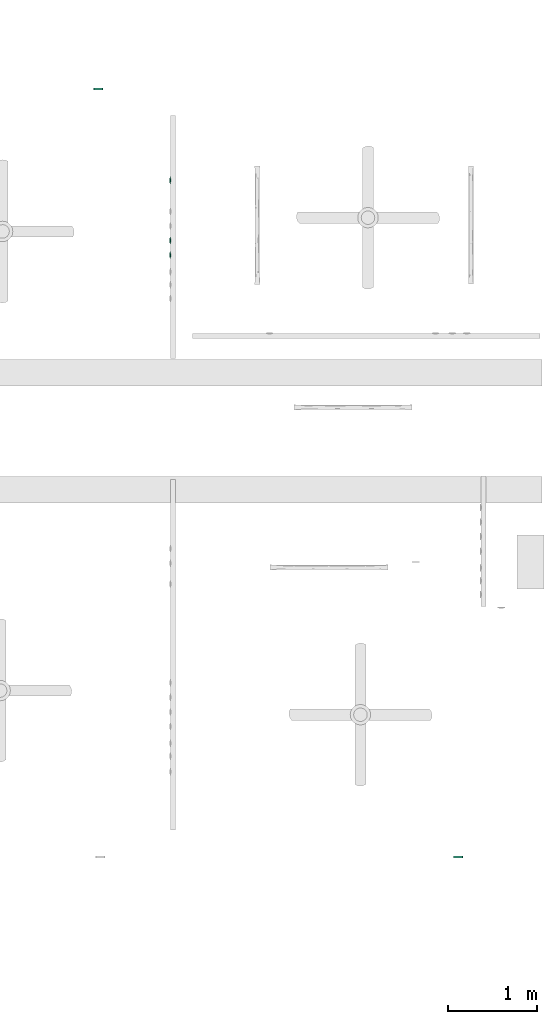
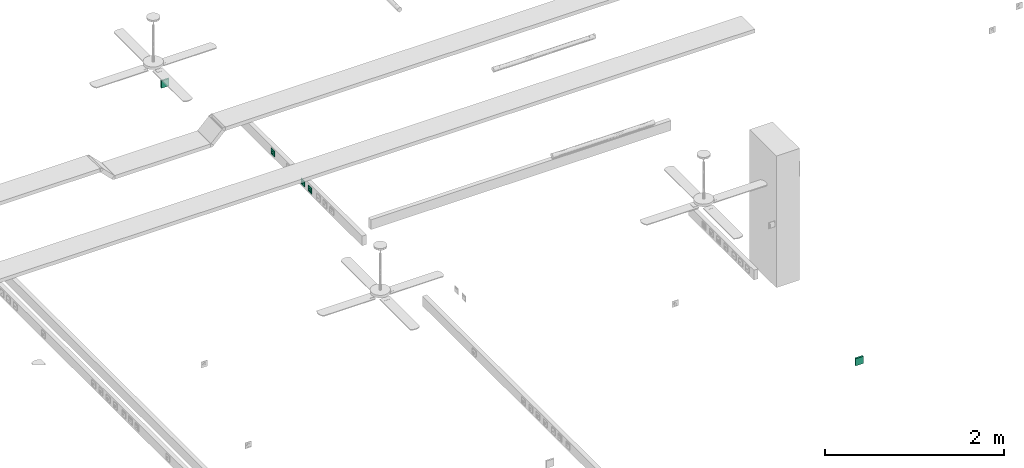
# One storey, part 71 of 166: 5 flow terminals.
"""IFC2X3 building model written with IfcOpenShell, lengths in metres."""

from ifc_helpers import new_model, entity, si_unit, converted_unit, derived_unit, direction, frame, origin, origin_2d_with_axis, place, context, subcontext, project, spatial, rectangle, extrude, face_set, surface_model, source, transform, mapped, type_object, type_shapes, element, save


model = new_model("IFC2X3")

# Units and contexts
model_context = context("Model", 3, precision=1e-05, world=origin(), true_north=direction((6.12303176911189e-17, 1.0)))
body_context = subcontext(model_context, "Body", "Model", "MODEL_VIEW")
ifc_project = project(units=[si_unit("LENGTHUNIT", "METRE"), si_unit("AREAUNIT", "SQUARE_METRE"), si_unit("VOLUMEUNIT", "CUBIC_METRE"), converted_unit("PLANEANGLEUNIT", "DEGREE", entity("IfcRatioMeasure", 0.0174532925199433), si_unit("PLANEANGLEUNIT", "RADIAN"), dimensions=[0, 0, 0, 0, 0, 0, 0]), si_unit("MASSUNIT", "GRAM", prefix="KILO"), derived_unit("MASSDENSITYUNIT", [(si_unit("MASSUNIT", "GRAM", prefix="KILO"), 1), (si_unit("LENGTHUNIT", "METRE"), -3)]), si_unit("TIMEUNIT", "SECOND"), si_unit("FREQUENCYUNIT", "HERTZ"), si_unit("THERMODYNAMICTEMPERATUREUNIT", "DEGREE_CELSIUS"), derived_unit("THERMALTRANSMITTANCEUNIT", [(si_unit("MASSUNIT", "GRAM", prefix="KILO"), 1), (si_unit("THERMODYNAMICTEMPERATUREUNIT", "KELVIN"), -1), (si_unit("TIMEUNIT", "SECOND"), -3)]), derived_unit("VOLUMETRICFLOWRATEUNIT", [(si_unit("LENGTHUNIT", "METRE"), 3), (si_unit("TIMEUNIT", "SECOND"), -1)]), si_unit("ELECTRICCURRENTUNIT", "AMPERE"), si_unit("ELECTRICVOLTAGEUNIT", "VOLT"), si_unit("POWERUNIT", "WATT"), si_unit("FORCEUNIT", "NEWTON"), si_unit("ILLUMINANCEUNIT", "LUX"), si_unit("LUMINOUSFLUXUNIT", "LUMEN"), si_unit("LUMINOUSINTENSITYUNIT", "CANDELA"), derived_unit("USERDEFINED", [(si_unit("MASSUNIT", "GRAM", prefix="KILO"), -1), (si_unit("LENGTHUNIT", "METRE"), -2), (si_unit("TIMEUNIT", "SECOND"), 3), (si_unit("LUMINOUSFLUXUNIT", "LUMEN"), 1)]), derived_unit("LINEARVELOCITYUNIT", [(si_unit("LENGTHUNIT", "METRE"), 1), (si_unit("TIMEUNIT", "SECOND"), -1)]), si_unit("PRESSUREUNIT", "PASCAL"), derived_unit("USERDEFINED", [(si_unit("LENGTHUNIT", "METRE"), -2), (si_unit("MASSUNIT", "GRAM", prefix="KILO"), 1), (si_unit("TIMEUNIT", "SECOND"), -2)])], contexts=[model_context])

# Site, building, storey
site_placement = place(None, origin())
site = spatial("IfcSite", under=ifc_project, at=site_placement, Name="Default", CompositionType="ELEMENT")
building_placement = place(site_placement, origin())
building = spatial("IfcBuilding", under=site, at=building_placement, CompositionType="ELEMENT")
storey_placement = place(building_placement, frame((0.0, 0.0, 4.27)))
storey = spatial("IfcBuildingStorey", under=building, at=storey_placement, Name="01", CompositionType="ELEMENT", Elevation=4.27)

# Flow terminals
light_fixture_type_1 = type_object("IfcLightFixtureType", Name="PC IP20", PredefinedType="NOTDEFINED")
shared_shape_1 = source(origin(), body_context, "Body", "SurfaceModel", [
    surface_model("IfcFaceBasedSurfaceModel", [(-0.00225000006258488, 0.0127499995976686, 0.00949633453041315), (0.0, 0.0104999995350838, 0.00949633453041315), (0.0, 0.0115376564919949, 0.0101656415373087), (0.0, 0.0139623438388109, 0.0101656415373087), (0.0, 0.0144589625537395, 0.00984531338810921), (0.0, 0.0121178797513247, 0.0102778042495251), (0.0, 0.0133821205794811, 0.0102778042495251), (0.0, 0.0127499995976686, 0.010399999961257), (0.0, 0.0149999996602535, 0.00949633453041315), (0.00225000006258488, 0.0127499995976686, 0.00949633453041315), (0.0, 0.0110410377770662, 0.00984531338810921), (0.0, 0.0127499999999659, 0.00949633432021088), (0.00225000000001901, 0.0127499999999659, 0.00949633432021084), (0.00217333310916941, 0.0121676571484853, 0.00949633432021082), (0.00194855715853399, 0.0116249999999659, 0.00949633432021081), (0.00159099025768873, 0.0111590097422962, 0.00949633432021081), (0.001125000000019, 0.010801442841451, 0.00949633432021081), (0.00058234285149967, 0.0105766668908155, 0.00949633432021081), (0.0, 0.0104999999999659, 0.00949633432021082), (-0.000582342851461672, 0.0105766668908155, 0.00949633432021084), (-0.001124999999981, 0.010801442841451, 0.00949633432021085), (-0.00159099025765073, 0.0111590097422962, 0.00949633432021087), (-0.00194855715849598, 0.011624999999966, 0.00949633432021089), (-0.0021733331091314, 0.0121676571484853, 0.00949633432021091), (-0.00224999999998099, 0.012749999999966, 0.00949633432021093), (-0.00217333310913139, 0.0133323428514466, 0.00949633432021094), (-0.00194855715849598, 0.013874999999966, 0.00949633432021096), (-0.00159099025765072, 0.0143409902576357, 0.00949633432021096), (-0.00112499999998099, 0.0146985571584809, 0.00949633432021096), (-0.00058234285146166, 0.0149233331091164, 0.00949633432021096), (0.0, 0.0149999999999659, 0.00949633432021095), (0.000582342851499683, 0.0149233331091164, 0.00949633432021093), (0.00112500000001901, 0.0146985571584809, 0.00949633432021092), (0.00159099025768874, 0.0143409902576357, 0.00949633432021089), (0.001948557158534, 0.0138749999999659, 0.00949633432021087), (0.00217333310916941, 0.0133323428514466, 0.00949633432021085), (0.00225000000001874, 0.0127499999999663, -0.00360000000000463), (0.00217333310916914, 0.0121676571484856, -0.00360000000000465), (0.00194855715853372, 0.0116249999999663, -0.00360000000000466), (0.00159099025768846, 0.0111590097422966, -0.00360000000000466), (0.00112500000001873, 0.0108014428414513, -0.00360000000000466), (0.000582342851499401, 0.0105766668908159, -0.00360000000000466), (0.0, 0.0104999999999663, -0.00360000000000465), (-0.000582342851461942, 0.0105766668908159, -0.00360000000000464), (-0.00112499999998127, 0.0108014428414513, -0.00360000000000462), (-0.001590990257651, 0.0111590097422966, -0.0036000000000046), (-0.00194855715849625, 0.0116249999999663, -0.00360000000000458), (-0.00217333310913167, 0.0121676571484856, -0.00360000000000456), (-0.00224999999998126, 0.0127499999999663, -0.00360000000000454), (-0.00217333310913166, 0.013332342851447, -0.00360000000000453), (-0.00194855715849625, 0.0138749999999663, -0.00360000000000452), (-0.00159099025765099, 0.014340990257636, -0.00360000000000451), (-0.00112499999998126, 0.0146985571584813, -0.00360000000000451), (-0.000582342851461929, 0.0149233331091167, -0.00360000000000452), (0.0, 0.0149999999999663, -0.00360000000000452), (0.000582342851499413, 0.0149233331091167, -0.00360000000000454), (0.00112500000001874, 0.0146985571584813, -0.00360000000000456), (0.00159099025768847, 0.014340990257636, -0.00360000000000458), (0.00194855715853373, 0.0138749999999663, -0.0036000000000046), (0.00217333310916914, 0.013332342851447, -0.00360000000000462), (0.0270000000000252, 0.026999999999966, 0.0113999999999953), (-0.0269999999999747, 0.026999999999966, 0.0113999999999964), (-0.0269999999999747, -0.0270000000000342, 0.0113999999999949), (0.0270000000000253, -0.0270000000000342, 0.0113999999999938), (-0.0199999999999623, 0.0, 0.0113999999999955), (-0.0193185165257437, -0.00517638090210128, 0.0113999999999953), (-0.0173205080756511, -0.0100000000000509, 0.0113999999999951), (-0.0141421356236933, -0.0141421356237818, 0.011399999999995), (-0.00999999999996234, -0.0173205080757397, 0.0113999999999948), (-0.00517638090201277, -0.0193185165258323, 0.0113999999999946), (0.0, -0.0200000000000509, 0.0113999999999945), (0.00517638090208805, -0.0193185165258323, 0.0113999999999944), (0.0100000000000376, -0.0173205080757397, 0.0113999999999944), (0.0141421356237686, -0.0141421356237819, 0.0113999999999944), (0.0173205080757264, -0.010000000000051, 0.0113999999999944), (0.0193185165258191, -0.00517638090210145, 0.0113999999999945), (0.0200000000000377, 0.0, 0.0113999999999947), (0.0193185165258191, 0.00517638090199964, 0.0113999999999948), (0.0173205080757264, 0.0099999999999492, 0.011399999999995), (0.0141421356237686, 0.0141421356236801, 0.0113999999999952), (0.0100000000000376, 0.0173205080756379, 0.0113999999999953), (0.00517638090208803, 0.0193185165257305, 0.0113999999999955), (0.0, 0.0199999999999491, 0.0113999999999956), (-0.00517638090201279, 0.0193185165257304, 0.0113999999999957), (-0.00999999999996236, 0.0173205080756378, 0.0113999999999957), (-0.0141421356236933, 0.01414213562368, 0.0113999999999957), (-0.0173205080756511, 0.00999999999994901, 0.0113999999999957), (-0.0193185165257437, 0.00517638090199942, 0.0113999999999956), (0.0270000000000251, 0.0269999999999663, 0.00199999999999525), (0.0270000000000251, -0.0270000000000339, 0.00199999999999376), (-0.0269999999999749, -0.0270000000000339, 0.00199999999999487), (-0.0269999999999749, 0.0269999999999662, 0.00199999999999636), (0.0210000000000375, 0.0, 0.00199999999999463), (0.0202844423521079, -0.00543519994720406, 0.00199999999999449), (0.0181865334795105, -0.0105000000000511, 0.0019999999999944), (0.0148492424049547, -0.0148492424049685, 0.00199999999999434), (0.0105000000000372, -0.0181865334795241, 0.00199999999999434), (0.0054351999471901, -0.0202844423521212, 0.00199999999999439), (0.0, -0.0210000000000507, 0.00199999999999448), (-0.00543519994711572, -0.020284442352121, 0.00199999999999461), (-0.0104999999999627, -0.0181865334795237, 0.00199999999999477), (-0.0148492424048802, -0.014849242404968, 0.00199999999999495), (-0.0181865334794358, -0.0105000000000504, 0.00199999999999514), (-0.020284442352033, -0.00543519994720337, 0.00199999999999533), (-0.0209999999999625, 0.0, 0.00199999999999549), (-0.0202844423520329, 0.0054351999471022, 0.00199999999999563), (-0.0181865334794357, 0.0104999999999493, 0.00199999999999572), (-0.01484924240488, 0.0148492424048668, 0.00199999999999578), (-0.0104999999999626, 0.0181865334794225, 0.00199999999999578), (-0.00543519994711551, 0.0202844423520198, 0.00199999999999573), (0.0, 0.0209999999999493, 0.00199999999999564), (0.00543519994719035, 0.0202844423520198, 0.00199999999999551), (0.0105000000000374, 0.0181865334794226, 0.00199999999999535), (0.0148492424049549, 0.0148492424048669, 0.00199999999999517), (0.0181865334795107, 0.0104999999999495, 0.00199999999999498), (0.0202844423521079, 0.00543519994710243, 0.00199999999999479), (0.0200000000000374, 0.0, -0.00360000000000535), (0.0193185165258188, -0.00517638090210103, -0.00360000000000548), (0.0173205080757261, -0.0100000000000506, -0.00360000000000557), (0.0141421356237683, -0.0141421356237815, -0.00360000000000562), (0.0100000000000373, -0.0173205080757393, -0.00360000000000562), (0.00517638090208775, -0.0193185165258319, -0.00360000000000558), (0.0, -0.0200000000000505, -0.00360000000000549), (-0.00517638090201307, -0.0193185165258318, -0.00360000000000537), (-0.00999999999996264, -0.0173205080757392, -0.00360000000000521), (-0.0141421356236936, -0.0141421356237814, -0.00360000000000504), (-0.0173205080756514, -0.0100000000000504, -0.00360000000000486), (-0.019318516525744, -0.00517638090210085, -0.00360000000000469), (-0.0199999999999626, 0.0, -0.00360000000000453), (-0.0193185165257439, 0.00517638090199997, -0.0036000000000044), (-0.0173205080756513, 0.00999999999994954, -0.00360000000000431), (-0.0141421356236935, 0.0141421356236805, -0.00360000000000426), (-0.00999999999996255, 0.0173205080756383, -0.00360000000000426), (-0.00517638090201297, 0.0193185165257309, -0.0036000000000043), (0.0, 0.0199999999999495, -0.00360000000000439), (0.00517638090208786, 0.0193185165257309, -0.00360000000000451), (0.0100000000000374, 0.0173205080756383, -0.00360000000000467), (0.0141421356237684, 0.0141421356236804, -0.00360000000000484), (0.0173205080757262, 0.0099999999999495, -0.00360000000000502), (0.0193185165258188, 0.00517638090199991, -0.00360000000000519), (-0.0123499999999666, 0.0, -0.00360000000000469), (-0.0122562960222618, -0.000711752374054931, -0.00360000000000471), (-0.0119815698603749, -0.00137500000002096, -0.00360000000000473), (-0.0115445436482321, -0.00194454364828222, -0.00360000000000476), (-0.0109749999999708, -0.00238156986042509, -0.00360000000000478), (-0.0103117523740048, -0.00265629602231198, -0.0036000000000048), (-0.00959999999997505, -0.00275000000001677, -0.00360000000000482), (-0.0088882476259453, -0.00265629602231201, -0.00360000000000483), (-0.00822499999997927, -0.00238156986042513, -0.00360000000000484), (-0.00765545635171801, -0.00194454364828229, -0.00360000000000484), (-0.00721843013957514, -0.00137500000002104, -0.00360000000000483), (-0.00694370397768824, -0.000711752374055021, -0.00360000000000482), (-0.00684999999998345, 0.0, -0.0036000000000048), (-0.00694370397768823, 0.000711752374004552, -0.00360000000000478), (-0.00721843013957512, 0.00137499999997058, -0.00360000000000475), (-0.00765545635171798, 0.00194454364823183, -0.00360000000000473), (-0.00822499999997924, 0.00238156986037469, -0.0036000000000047), (-0.00888824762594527, 0.00265629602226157, -0.00360000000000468), (-0.00959999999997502, 0.00274999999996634, -0.00360000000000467), (-0.0103117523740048, 0.00265629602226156, -0.00360000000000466), (-0.0109749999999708, 0.00238156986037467, -0.00360000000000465), (-0.011544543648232, 0.00194454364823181, -0.00360000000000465), (-0.0119815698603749, 0.00137499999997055, -0.00360000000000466), (-0.0122562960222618, 0.000711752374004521, -0.00360000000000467), (0.00685000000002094, 0.0, -0.00360000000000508), (0.0069437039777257, -0.00071175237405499, -0.0036000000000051), (0.00721843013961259, -0.00137500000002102, -0.00360000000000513), (0.00765545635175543, -0.00194454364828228, -0.00360000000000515), (0.00822500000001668, -0.00238156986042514, -0.00360000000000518), (0.00888824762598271, -0.00265629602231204, -0.0036000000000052), (0.00960000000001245, -0.00275000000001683, -0.00360000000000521), (0.0103117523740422, -0.00265629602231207, -0.00360000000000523), (0.0109750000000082, -0.00238156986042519, -0.00360000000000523), (0.0115445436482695, -0.00194454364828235, -0.00360000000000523), (0.0119815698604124, -0.0013750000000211, -0.00360000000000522), (0.0122562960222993, -0.00071175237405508, -0.00360000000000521), (0.012350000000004, 0.0, -0.00360000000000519), (0.0122562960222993, 0.000711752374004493, -0.00360000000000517), (0.0119815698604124, 0.00137499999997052, -0.00360000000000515), (0.0115445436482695, 0.00194454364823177, -0.00360000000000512), (0.0109750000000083, 0.00238156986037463, -0.0036000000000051), (0.0103117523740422, 0.00265629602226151, -0.00360000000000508), (0.00960000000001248, 0.00274999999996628, -0.00360000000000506), (0.00888824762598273, 0.0026562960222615, -0.00360000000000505), (0.0082250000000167, 0.00238156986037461, -0.00360000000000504), (0.00765545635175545, 0.00194454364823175, -0.00360000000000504), (0.0072184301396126, 0.00137499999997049, -0.00360000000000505), (0.00694370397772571, 0.000711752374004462, -0.00360000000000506), (0.0210000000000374, 0.0, -0.00460000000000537), (0.0202844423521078, -0.00543519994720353, -0.00460000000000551), (0.0181865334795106, -0.0105000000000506, -0.0046000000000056), (0.0148492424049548, -0.0148492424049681, -0.00460000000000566), (0.0105000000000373, -0.0181865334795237, -0.00460000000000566), (0.00543519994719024, -0.0202844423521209, -0.00460000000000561), (0.0, -0.0210000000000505, -0.00460000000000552), (-0.00543519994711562, -0.0202844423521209, -0.00460000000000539), (-0.0104999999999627, -0.0181865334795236, -0.00460000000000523), (-0.0148492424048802, -0.0148492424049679, -0.00460000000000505), (-0.0181865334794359, -0.0105000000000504, -0.00460000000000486), (-0.0202844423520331, -0.00543519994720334, -0.00460000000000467), (-0.0209999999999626, 0.0, -0.00460000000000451), (-0.020284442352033, 0.00543519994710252, -0.00460000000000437), (-0.0181865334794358, 0.0104999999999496, -0.00460000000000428), (-0.0148492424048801, 0.0148492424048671, -0.00460000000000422), (-0.0104999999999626, 0.0181865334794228, -0.00460000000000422), (-0.00543519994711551, 0.02028444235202, -0.00460000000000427), (0.0, 0.0209999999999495, -0.00460000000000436), (0.00543519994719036, 0.02028444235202, -0.00460000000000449), (0.0105000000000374, 0.0181865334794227, -0.00460000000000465), (0.0148492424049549, 0.014849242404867, -0.00460000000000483), (0.0181865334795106, 0.0104999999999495, -0.00460000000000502), (0.0202844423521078, 0.00543519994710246, -0.00460000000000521), (-0.00684999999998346, 0.0, -0.0046000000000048), (-0.00694370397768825, 0.000711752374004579, -0.00460000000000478), (-0.00721843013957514, 0.00137499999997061, -0.00460000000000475), (-0.007655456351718, 0.00194454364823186, -0.00460000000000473), (-0.00822499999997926, 0.00238156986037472, -0.0046000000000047), (-0.00888824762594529, 0.0026562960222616, -0.00460000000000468), (-0.00959999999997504, 0.00274999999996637, -0.00460000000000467), (-0.0103117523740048, 0.00265629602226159, -0.00460000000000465), (-0.0109749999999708, 0.0023815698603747, -0.00460000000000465), (-0.0115445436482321, 0.00194454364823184, -0.00460000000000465), (-0.0119815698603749, 0.00137499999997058, -0.00460000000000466), (-0.0122562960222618, 0.000711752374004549, -0.00460000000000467), (-0.0123499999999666, 0.0, -0.00460000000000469), (-0.0122562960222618, -0.000711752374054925, -0.00460000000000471), (-0.0119815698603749, -0.00137500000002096, -0.00460000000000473), (-0.0115445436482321, -0.00194454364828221, -0.00460000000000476), (-0.0109749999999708, -0.00238156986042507, -0.00460000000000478), (-0.0103117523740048, -0.00265629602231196, -0.0046000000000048), (-0.00959999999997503, -0.00275000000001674, -0.00460000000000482), (-0.00888824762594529, -0.00265629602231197, -0.00460000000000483), (-0.00822499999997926, -0.00238156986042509, -0.00460000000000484), (-0.007655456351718, -0.00194454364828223, -0.00460000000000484), (-0.00721843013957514, -0.00137500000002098, -0.00460000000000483), (-0.00694370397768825, -0.000711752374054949, -0.00460000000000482), (0.012350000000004, 0.0, -0.00460000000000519), (0.0122562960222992, 0.000711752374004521, -0.00460000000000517), (0.0119815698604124, 0.00137499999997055, -0.00460000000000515), (0.0115445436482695, 0.0019445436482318, -0.00460000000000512), (0.0109750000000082, 0.00238156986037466, -0.0046000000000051), (0.0103117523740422, 0.00265629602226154, -0.00460000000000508), (0.00960000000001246, 0.00274999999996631, -0.00460000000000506), (0.00888824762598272, 0.00265629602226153, -0.00460000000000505), (0.00822500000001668, 0.00238156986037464, -0.00460000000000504), (0.00765545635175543, 0.00194454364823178, -0.00460000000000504), (0.00721843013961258, 0.00137499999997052, -0.00460000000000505), (0.00694370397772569, 0.00071175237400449, -0.00460000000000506), (0.00685000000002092, 0.0, -0.00460000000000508), (0.00694370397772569, -0.000711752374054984, -0.0046000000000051), (0.00721843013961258, -0.00137500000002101, -0.00460000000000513), (0.00765545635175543, -0.00194454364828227, -0.00460000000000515), (0.00822500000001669, -0.00238156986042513, -0.00460000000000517), (0.00888824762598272, -0.00265629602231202, -0.0046000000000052), (0.00960000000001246, -0.0027500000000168, -0.00460000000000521), (0.0103117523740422, -0.00265629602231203, -0.00460000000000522), (0.0109750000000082, -0.00238156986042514, -0.00460000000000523), (0.0115445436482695, -0.00194454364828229, -0.00460000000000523), (0.0119815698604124, -0.00137500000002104, -0.00460000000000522), (0.0122562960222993, -0.000711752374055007, -0.00460000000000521), (0.040350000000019, 0.0403499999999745, 0.00659999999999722), (0.040350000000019, -0.0403500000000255, 0.00659999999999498), (-0.0403499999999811, -0.0403500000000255, 0.00659999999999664), (-0.0403499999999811, 0.0403499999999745, 0.00659999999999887), (0.027000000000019, 0.0269999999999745, 0.00659999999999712), (-0.0269999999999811, 0.0269999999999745, 0.00659999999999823), (-0.026999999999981, -0.0270000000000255, 0.00659999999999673), (0.027000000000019, -0.0270000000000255, 0.00659999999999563), (0.027000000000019, 0.0269999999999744, 0.0103999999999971), (-0.026999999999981, 0.0269999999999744, 0.0103999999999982), (-0.026999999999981, -0.0270000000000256, 0.0103999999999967), (0.027000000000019, -0.0270000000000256, 0.0103999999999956), (0.040350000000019, 0.0403499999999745, 0.00659999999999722), (0.040350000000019, -0.0403500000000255, 0.00659999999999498), (-0.0403499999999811, -0.0403500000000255, 0.00659999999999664), (-0.0403499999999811, 0.0403499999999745, 0.00659999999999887), (-0.0269999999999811, 0.0269999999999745, 0.00659999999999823), (-0.0269999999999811, -0.0270000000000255, 0.00659999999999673), (0.0270000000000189, -0.0270000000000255, 0.00659999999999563), (0.0270000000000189, 0.0269999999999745, 0.00659999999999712), (0.0403500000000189, 0.0403499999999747, 0.0), (0.0403500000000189, -0.0403500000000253, 0.0), (-0.0403499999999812, -0.0403500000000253, 0.0), (-0.0403499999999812, 0.0403499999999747, 0.0), (0.0270000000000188, 0.0269999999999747, 0.0), (-0.0269999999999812, 0.0269999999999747, 0.0), (-0.0269999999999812, -0.0270000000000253, 0.0), (0.0270000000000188, -0.0270000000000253, 0.0)], [face_set([[[0, 1, 2]], [[3, 4, 2, 5]], [[6, 3, 5, 7]], [[2, 4, 0]], [[4, 8, 0]], [[3, 9, 8]], [[1, 9, 10]], [[2, 3, 6, 7]], [[3, 10, 9]], [[2, 10, 3]], [[11, 1, 0, 8]], [[11, 8, 9, 1]]]), face_set([[[12, 13, 14, 15, 16, 17, 18, 19, 20, 21, 22, 23, 24, 25, 26, 27, 28, 29, 30, 31, 32, 33, 34, 35]], [[36, 37, 38, 39, 40, 41, 42, 43, 44, 45, 46, 47, 48, 49, 50, 51, 52, 53, 54, 55, 56, 57, 58, 59]], [[48, 47, 23, 24]], [[47, 46, 22, 23]], [[45, 44, 20, 21]], [[46, 45, 21, 22]], [[44, 43, 19, 20]], [[18, 19, 43, 42]], [[42, 41, 17, 18]], [[41, 40, 16, 17]], [[39, 38, 14, 15]], [[40, 39, 15, 16]], [[38, 37, 13, 14]], [[12, 13, 37, 36]], [[36, 59, 35, 12]], [[59, 58, 34, 35]], [[57, 56, 32, 33]], [[58, 57, 33, 34]], [[56, 55, 31, 32]], [[30, 31, 55, 54]], [[54, 53, 29, 30]], [[53, 52, 28, 29]], [[51, 50, 26, 27]], [[52, 51, 27, 28]], [[50, 49, 25, 26]], [[24, 25, 49, 48]]]), face_set([[[60, 61, 62, 63], [64, 65, 66, 67, 68, 69, 70, 71, 72, 73, 74, 75, 76, 77, 78, 79, 80, 81, 82, 83, 84, 85, 86, 87]], [[88, 89, 90, 91], [92, 93, 94, 95, 96, 97, 98, 99, 100, 101, 102, 103, 104, 105, 106, 107, 108, 109, 110, 111, 112, 113, 114, 115]], [[61, 60, 88, 91]], [[62, 61, 91, 90]], [[63, 62, 90, 89]], [[60, 63, 89, 88]], [[116, 117, 118, 119, 120, 121, 122, 123, 124, 125, 126, 127, 128, 129, 130, 131, 132, 133, 134, 135, 136, 137, 138, 139], [140, 141, 142, 143, 144, 145, 146, 147, 148, 149, 150, 151, 152, 153, 154, 155, 156, 157, 158, 159, 160, 161, 162, 163], [164, 165, 166, 167, 168, 169, 170, 171, 172, 173, 174, 175, 176, 177, 178, 179, 180, 181, 182, 183, 184, 185, 186, 187]], [[64, 128, 127, 65]], [[65, 127, 126, 66]], [[67, 125, 124, 68]], [[66, 126, 125, 67]], [[68, 124, 123, 69]], [[122, 70, 69, 123]], [[70, 122, 121, 71]], [[71, 121, 120, 72]], [[73, 119, 118, 74]], [[72, 120, 119, 73]], [[74, 118, 117, 75]], [[116, 76, 75, 117]], [[76, 116, 139, 77]], [[77, 139, 138, 78]], [[79, 137, 136, 80]], [[78, 138, 137, 79]], [[80, 136, 135, 81]], [[134, 82, 81, 135]], [[82, 134, 133, 83]], [[83, 133, 132, 84]], [[84, 132, 131, 85]], [[85, 131, 130, 86]], [[130, 129, 87, 86]], [[64, 87, 129, 128]], [[188, 189, 190, 191, 192, 193, 194, 195, 196, 197, 198, 199, 200, 201, 202, 203, 204, 205, 206, 207, 208, 209, 210, 211], [212, 213, 214, 215, 216, 217, 218, 219, 220, 221, 222, 223, 224, 225, 226, 227, 228, 229, 230, 231, 232, 233, 234, 235], [236, 237, 238, 239, 240, 241, 242, 243, 244, 245, 246, 247, 248, 249, 250, 251, 252, 253, 254, 255, 256, 257, 258, 259]], [[200, 199, 103, 104]], [[199, 198, 102, 103]], [[197, 196, 100, 101]], [[198, 197, 101, 102]], [[196, 195, 99, 100]], [[98, 99, 195, 194]], [[194, 193, 97, 98]], [[193, 192, 96, 97]], [[191, 190, 94, 95]], [[192, 191, 95, 96]], [[190, 189, 93, 94]], [[92, 93, 189, 188]], [[188, 211, 115, 92]], [[211, 210, 114, 115]], [[209, 208, 112, 113]], [[210, 209, 113, 114]], [[208, 207, 111, 112]], [[110, 111, 207, 206]], [[206, 205, 109, 110]], [[205, 204, 108, 109]], [[203, 202, 106, 107]], [[204, 203, 107, 108]], [[202, 201, 105, 106]], [[104, 105, 201, 200]], [[141, 225, 226, 142]], [[140, 224, 225, 141]], [[144, 228, 229, 145]], [[143, 227, 228, 144]], [[142, 226, 227, 143]], [[230, 146, 145, 229]], [[149, 233, 232, 148]], [[148, 232, 231, 147]], [[152, 212, 235, 151]], [[151, 235, 234, 150]], [[150, 234, 233, 149]], [[146, 230, 231, 147]], [[154, 214, 213, 153]], [[153, 213, 212, 152]], [[157, 217, 216, 156]], [[156, 216, 215, 155]], [[155, 215, 214, 154]], [[218, 158, 157, 217]], [[160, 220, 221, 161]], [[159, 219, 220, 160]], [[163, 223, 224, 140]], [[162, 222, 223, 163]], [[161, 221, 222, 162]], [[158, 218, 219, 159]], [[166, 250, 249, 165]], [[165, 249, 248, 164]], [[169, 253, 252, 168]], [[168, 252, 251, 167]], [[167, 251, 250, 166]], [[254, 170, 169, 253]], [[172, 256, 257, 173]], [[171, 255, 256, 172]], [[175, 259, 236, 176]], [[174, 258, 259, 175]], [[173, 257, 258, 174]], [[170, 254, 255, 171]], [[177, 237, 238, 178]], [[176, 236, 237, 177]], [[180, 240, 241, 181]], [[179, 239, 240, 180]], [[178, 238, 239, 179]], [[242, 182, 181, 241]], [[185, 245, 244, 184]], [[184, 244, 243, 183]], [[164, 248, 247, 187]], [[187, 247, 246, 186]], [[186, 246, 245, 185]], [[182, 242, 243, 183]]]), face_set([[[260, 261, 262, 263], [264, 265, 266, 267]], [[260, 268, 269, 263]], [[263, 269, 270, 262]], [[262, 270, 271, 261]], [[261, 271, 268, 260]], [[264, 265, 269, 268]], [[265, 266, 270, 269]], [[266, 267, 271, 270]], [[268, 271, 267, 264]]]), face_set([[[272, 273, 274, 275], [276, 277, 278, 279]], [[280, 281, 282, 283], [284, 285, 286, 287]], [[275, 272, 280, 283]], [[274, 275, 283, 282]], [[273, 274, 282, 281]], [[272, 273, 281, 280]], [[284, 285, 276, 279]], [[285, 286, 277, 276]], [[286, 287, 278, 277]], [[279, 278, 287, 284]]])]),
])
type_shapes(light_fixture_type_1, [shared_shape_1])
for number, where, z_axis, x_axis in (
    (1, (37.3667436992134, -186.610073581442, 4.70800000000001), (-1.0, 0.0, 0.0), (0.0, -1.0, 0.0)),
    (2, (37.3667436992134, -186.773073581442, 4.70800000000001), (-1.0, 0.0, 0.0), (0.0, -1.0, 0.0)),
    (3, (37.3667436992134, -185.937073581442, 4.70800000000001), (-1.0, 0.0, 0.0), (0.0, -1.0, 0.0)),
):
    element("IfcFlowTerminal", number, at=place(building_placement, frame(where, z_axis=z_axis, x_axis=x_axis)), inside=storey, type_object=light_fixture_type_1, Name="INT Prise de courant:PC IP20", ObjectType="INT Prise de courant:PC IP20", context=body_context, shape_type="MappedRepresentation", body=[
        mapped(shared_shape_1, transform((0.0, 0.0, 0.0), scale=1.0)),
    ])
light_fixture_type_2 = type_object("IfcLightFixtureType", Name="Default", PredefinedType="NOTDEFINED")
shared_shape_2 = source(origin(), body_context, "Body", "SweptSolid", [
    extrude(rectangle(XDim=0.1, YDim=0.1, at=origin_2d_with_axis()), frame((0.0, 0.0, 0.0), z_axis=(0.0, 0.0, 1.0), x_axis=(0.0, 1.0, 0.0)), (0.0, 0.0, 1.0), 0.02),
])
type_shapes(light_fixture_type_2, [shared_shape_2])
for number, where, z_axis, x_axis in (
    (4, (36.5565184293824, -184.926487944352, 5.32000000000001), (0.0, 1.0, 0.0), (-1.0, 0.0, 0.0)),
    (5, (40.5797436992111, -193.489651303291, 5.32000000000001), (0.0, -1.0, 0.0), (1.0, 0.0, 0.0)),
):
    element("IfcFlowTerminal", number, at=place(building_placement, frame(where, z_axis=z_axis, x_axis=x_axis)), inside=storey, type_object=light_fixture_type_2, Name="E_Reader_Badge 1_F_MEPcontent:Default", ObjectType="E_Reader_Badge 1_F_MEPcontent:Default", context=body_context, shape_type="MappedRepresentation", body=[
        mapped(shared_shape_2, transform((0.0, 0.0, 0.0), scale=1.0)),
    ])

save(model, "model.ifc")
